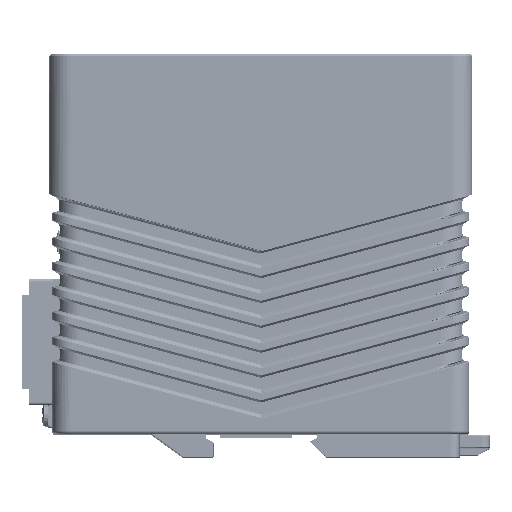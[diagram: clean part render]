
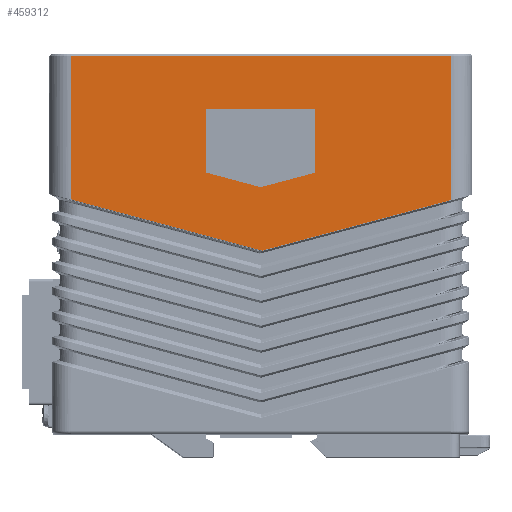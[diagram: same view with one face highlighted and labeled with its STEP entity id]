
A CAD part, left-side view. The second image highlights one B-rep face of the part: STEP entity #459312.
In plain terms, the highlighted planar face has unit normal (-1, 0, 0).
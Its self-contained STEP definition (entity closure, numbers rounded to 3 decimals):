
#25748 = LINE ( 'NONE', #533773, #739142 ) ;
#33643 = DIRECTION ( 'NONE',  ( 0., 0., -1. ) ) ;
#33988 = DIRECTION ( 'NONE',  ( 0., 0.966, -0.259 ) ) ;
#36531 = EDGE_CURVE ( 'NONE', #554606, #551899, #680797, .T. ) ;
#41848 = LINE ( 'NONE', #733001, #121229 ) ;
#49882 = EDGE_CURVE ( 'NONE', #724071, #554606, #41848, .T. ) ;
#54778 = PLANE ( 'NONE',  #185327 ) ;
#70350 = ORIENTED_EDGE ( 'NONE', *, *, #76168, .F. ) ;
#76168 = EDGE_CURVE ( 'NONE', #448048, #372861, #313932, .T. ) ;
#99964 = DIRECTION ( 'NONE',  ( 0., 1., 0. ) ) ;
#106204 = DIRECTION ( 'NONE',  ( 0., -0.966, -0.259 ) ) ;
#112517 = DIRECTION ( 'NONE',  ( 0., 0., -1. ) ) ;
#121229 = VECTOR ( 'NONE', #33643, 1000. ) ;
#162541 = CARTESIAN_POINT ( 'NONE',  ( -28.535, 61.074, -0.354 ) ) ;
#166730 = LINE ( 'NONE', #553896, #218452 ) ;
#179648 = DIRECTION ( 'NONE',  ( 0., 1., 0. ) ) ;
#183513 = VECTOR ( 'NONE', #112517, 1000. ) ;
#185327 = AXIS2_PLACEMENT_3D ( 'NONE', #504298, #687549, #179648 ) ;
#188887 = EDGE_CURVE ( 'NONE', #234250, #724071, #599873, .T. ) ;
#218452 = VECTOR ( 'NONE', #303848, 1000. ) ;
#231231 = CARTESIAN_POINT ( 'NONE',  ( -28.535, -0.065, -62.799 ) ) ;
#234250 = VERTEX_POINT ( 'NONE', #681365 ) ;
#236096 = VECTOR ( 'NONE', #813753, 1000. ) ;
#250248 = FACE_OUTER_BOUND ( 'NONE', #534307, .T. ) ;
#251707 = CARTESIAN_POINT ( 'NONE',  ( -28.535, -17.5, -37.829 ) ) ;
#251768 = EDGE_CURVE ( 'NONE', #799813, #551899, #25748, .T. ) ;
#263498 = EDGE_LOOP ( 'NONE', ( #688221, #434989, #755032, #70350, #758678 ) ) ;
#303848 = DIRECTION ( 'NONE',  ( 0., 0., -1. ) ) ;
#310505 = VERTEX_POINT ( 'NONE', #251707 ) ;
#313932 = LINE ( 'NONE', #568096, #236096 ) ;
#325246 = DIRECTION ( 'NONE',  ( 0., -0.966, 0.259 ) ) ;
#330864 = ORIENTED_EDGE ( 'NONE', *, *, #188887, .T. ) ;
#339849 = CARTESIAN_POINT ( 'NONE',  ( -28.535, -17.5, -37.829 ) ) ;
#345711 = ORIENTED_EDGE ( 'NONE', *, *, #765728, .F. ) ;
#372861 = VERTEX_POINT ( 'NONE', #438291 ) ;
#374551 = LINE ( 'NONE', #612395, #183513 ) ;
#381289 = CARTESIAN_POINT ( 'NONE',  ( -28.535, -61.07, -46.676 ) ) ;
#383034 = VECTOR ( 'NONE', #532238, 1000. ) ;
#397218 = EDGE_CURVE ( 'NONE', #648137, #448048, #166730, .T. ) ;
#398804 = ORIENTED_EDGE ( 'NONE', *, *, #251768, .F. ) ;
#434989 = ORIENTED_EDGE ( 'NONE', *, *, #449483, .F. ) ;
#438291 = CARTESIAN_POINT ( 'NONE',  ( -28.535, 0., -42.518 ) ) ;
#448048 = VERTEX_POINT ( 'NONE', #475818 ) ;
#449483 = EDGE_CURVE ( 'NONE', #310505, #640212, #722898, .T. ) ;
#459312 = ADVANCED_FACE ( 'NONE', ( #468398, #250248 ), #54778, .F. ) ;
#461152 = VECTOR ( 'NONE', #325246, 1000. ) ;
#468398 = FACE_BOUND ( 'NONE', #263498, .T. ) ;
#475818 = CARTESIAN_POINT ( 'NONE',  ( -28.535, 17.5, -37.829 ) ) ;
#483854 = CARTESIAN_POINT ( 'NONE',  ( -28.535, -17.5, -17.5 ) ) ;
#504298 = CARTESIAN_POINT ( 'NONE',  ( -28.535, 61.074, 0.25 ) ) ;
#532238 = DIRECTION ( 'NONE',  ( 0., 1., 0. ) ) ;
#533773 = CARTESIAN_POINT ( 'NONE',  ( -28.535, 41.16, -74.069 ) ) ;
#534307 = EDGE_LOOP ( 'NONE', ( #542870, #642505, #398804, #345711, #330864 ) ) ;
#542870 = ORIENTED_EDGE ( 'NONE', *, *, #49882, .T. ) ;
#546216 = EDGE_CURVE ( 'NONE', #640212, #648137, #661161, .T. ) ;
#551899 = VERTEX_POINT ( 'NONE', #684551 ) ;
#552736 = VECTOR ( 'NONE', #99964, 1000. ) ;
#553896 = CARTESIAN_POINT ( 'NONE',  ( -28.535, 17.5, -17.5 ) ) ;
#554606 = VERTEX_POINT ( 'NONE', #695852 ) ;
#559994 = VECTOR ( 'NONE', #593968, 1000. ) ;
#568096 = CARTESIAN_POINT ( 'NONE',  ( -28.535, 17.5, -37.829 ) ) ;
#572632 = CARTESIAN_POINT ( 'NONE',  ( -28.535, 17.5, -17.5 ) ) ;
#575337 = CARTESIAN_POINT ( 'NONE',  ( -28.535, 0., -42.518 ) ) ;
#593968 = DIRECTION ( 'NONE',  ( 0., 0., 1. ) ) ;
#599873 = LINE ( 'NONE', #162541, #552736 ) ;
#612395 = CARTESIAN_POINT ( 'NONE',  ( -28.535, -61.07, 0.25 ) ) ;
#624864 = VECTOR ( 'NONE', #106204, 1000. ) ;
#637713 = LINE ( 'NONE', #575337, #461152 ) ;
#640212 = VERTEX_POINT ( 'NONE', #483854 ) ;
#642505 = ORIENTED_EDGE ( 'NONE', *, *, #36531, .T. ) ;
#648137 = VERTEX_POINT ( 'NONE', #572632 ) ;
#657127 = CARTESIAN_POINT ( 'NONE',  ( -28.535, -17.5, -17.5 ) ) ;
#661161 = LINE ( 'NONE', #657127, #383034 ) ;
#680797 = LINE ( 'NONE', #231231, #624864 ) ;
#681365 = CARTESIAN_POINT ( 'NONE',  ( -28.535, -61.07, -0.354 ) ) ;
#684551 = CARTESIAN_POINT ( 'NONE',  ( -28.535, -0.483, -62.911 ) ) ;
#687549 = DIRECTION ( 'NONE',  ( 1., 0., 0. ) ) ;
#688221 = ORIENTED_EDGE ( 'NONE', *, *, #546216, .F. ) ;
#695852 = CARTESIAN_POINT ( 'NONE',  ( -28.535, 61.074, -46.416 ) ) ;
#722898 = LINE ( 'NONE', #339849, #559994 ) ;
#724071 = VERTEX_POINT ( 'NONE', #769483 ) ;
#733001 = CARTESIAN_POINT ( 'NONE',  ( -28.535, 61.074, 0.25 ) ) ;
#739142 = VECTOR ( 'NONE', #33988, 1000. ) ;
#755032 = ORIENTED_EDGE ( 'NONE', *, *, #763902, .F. ) ;
#758678 = ORIENTED_EDGE ( 'NONE', *, *, #397218, .F. ) ;
#763902 = EDGE_CURVE ( 'NONE', #372861, #310505, #637713, .T. ) ;
#765728 = EDGE_CURVE ( 'NONE', #234250, #799813, #374551, .T. ) ;
#769483 = CARTESIAN_POINT ( 'NONE',  ( -28.535, 61.074, -0.354 ) ) ;
#799813 = VERTEX_POINT ( 'NONE', #381289 ) ;
#813753 = DIRECTION ( 'NONE',  ( 0., -0.966, -0.259 ) ) ;
